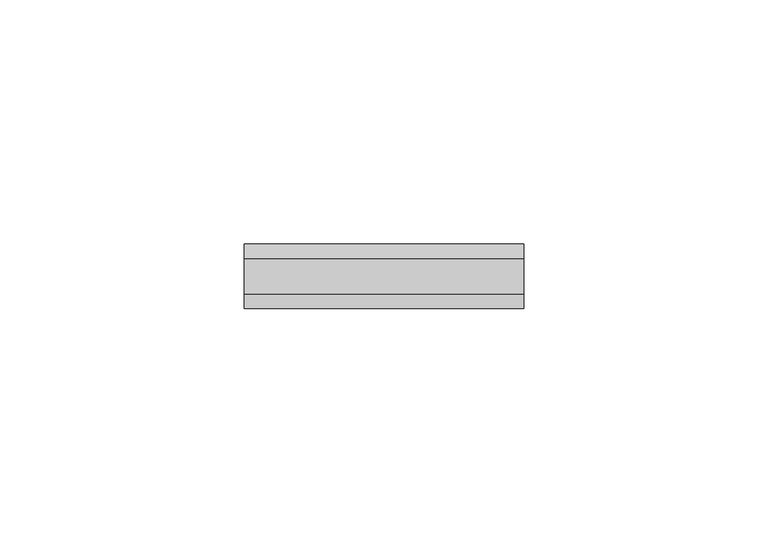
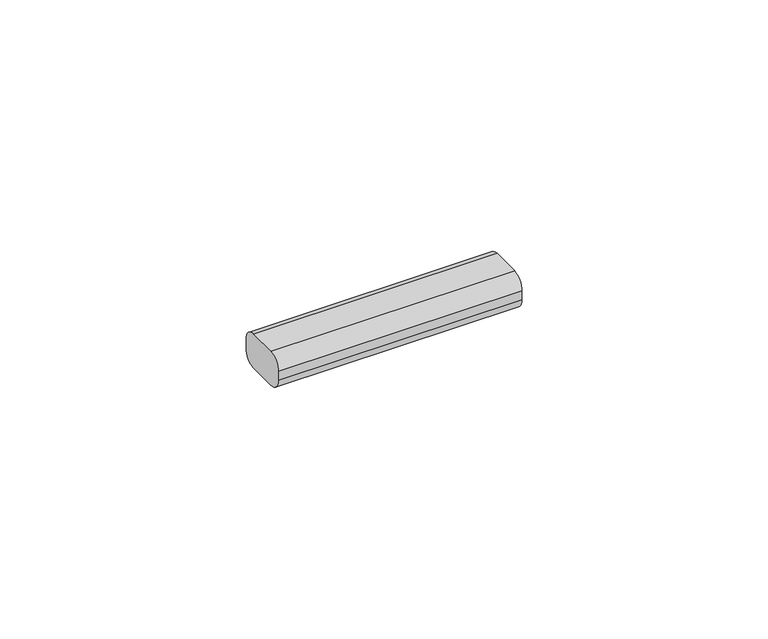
"""IFC4 building model written with IfcOpenShell, lengths in millimetres: cable carrier fitting geometry, DEVI EasyConnect EC-ETK : DEVI EasyConnect EC-ETK_98300872."""

from ifc_helpers import new_model, si_unit, point, frame, frame_2d, origin, place, context, project, spatial, polyline, circle_curve, trimmed, segment, composite_curve, outline, extrude, source, transform, mapped, element, save


def cable_carrier_fitting_7790ee7d(model_context):
    return source(origin(), model_context, "Body", "SweptSolid", [
        extrude(outline(composite_curve([segment(trimmed(circle_curve(frame_2d((3.556, 1.143)), 3.048), [point((3.556, 4.191))], [point((6.604, 1.143))], False, "CARTESIAN"), True, "CONTINUOUS"), segment(polyline([(6.604, 1.143), (6.604, -1.143)]), True, "CONTINUOUS"), segment(trimmed(circle_curve(frame_2d((3.556, -1.143)), 3.048), [point((6.604, -1.143))], [point((3.556, -4.191))], False, "CARTESIAN"), True, "CONTINUOUS"), segment(polyline([(3.556, -4.191), (-3.556, -4.191)]), True, "CONTINUOUS"), segment(trimmed(circle_curve(frame_2d((-3.556, -1.143)), 3.048), [point((-3.556, -4.191))], [point((-6.604, -1.143))], False, "CARTESIAN"), True, "CONTINUOUS"), segment(polyline([(-6.604, -1.143), (-6.604, 1.143)]), True, "CONTINUOUS"), segment(trimmed(circle_curve(frame_2d((-3.556, 1.143)), 3.048), [point((-6.604, 1.143))], [point((-3.556, 4.191))], False, "CARTESIAN"), True, "CONTINUOUS"), segment(polyline([(-3.556, 4.191), (3.556, 4.191)]), True, "CONTINUOUS")], self_intersect=False)), frame((0.0, 0.0, 0.0), z_axis=(1.0, 0.0, 0.0), x_axis=(0.0, 1.0, 0.0)), (0.0, 0.0, 1.0), 57.15),
    ])


if __name__ == "__main__":
    model = new_model("IFC4")
    model_context = context("Model", 3, world=origin())
    ifc_project = project(units=[si_unit("LENGTHUNIT", "METRE", prefix="MILLI")], contexts=[model_context])
    site = spatial("IfcSite", under=ifc_project)
    building = spatial("IfcBuilding", under=site)
    placement = place(None, origin())
    cable_carrier_fitting_shape = cable_carrier_fitting_7790ee7d(model_context)
    element("IfcCableCarrierFitting", 1, ObjectType="DEVI EasyConnect EC-ETK : DEVI EasyConnect EC-ETK_98300872", at=placement, inside=building, context=model_context, shape_type="MappedRepresentation", body=[
        mapped(cable_carrier_fitting_shape, transform((0.0, 0.0, 0.0), x_axis=(1.0, 0.0, 0.0), y_axis=(0.0, 1.0, 0.0), z_axis=(0.0, 0.0, 1.0))),
    ])
    save(model, "model.ifc")
